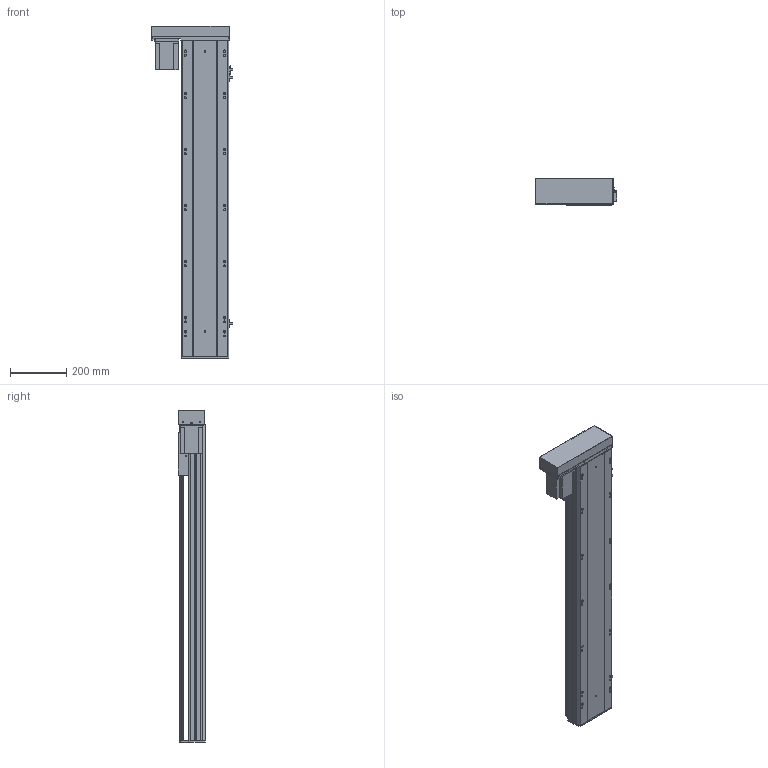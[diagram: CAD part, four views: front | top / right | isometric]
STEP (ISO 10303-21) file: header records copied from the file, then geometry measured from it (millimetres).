
FILE_DESCRIPTION (( 'STEP AP203' ), '1' );
FILE_NAME ('Y170-D10-S900-BL-P750W.STEP', '2020-01-19T23:05:42', ( '微软用户' ), ( '微软中国' ), 'SwSTEP 2.0', 'SolidWorks 2017', '' );
FILE_SCHEMA (( 'CONFIG_CONTROL_DESIGN' ));
Length unit declared in the file: millimetre
Products named in the file (12): Y170-陔遴奻裔-BR; YD-Y100-135-新外置传感挡片(通用）; Y--BL蟀諉啣-陔遴-; Y100-135俋离換覜ん; Y170-D10-S900-BL-P750W; 170--掛极-BR; Y170-BL-P750W楊擘啣; 侂狟750W; EGH20賑輸_蕼偞; Y雄赽釱-耜蚾; Y-BL.BR-俋欶; Y170耜裔--準---
Assembly tree (14 placements, depth 2):
  Y170-D10-S900-BL-P750W
    Y170耜裔--準---
    YD-Y100-135-新外置传感挡片(通用）
    Y100-135俋离換覜ん  x3
    170--掛极-BR
    Y170-BL-P750W楊擘啣
    侂狟750W
    EGH20賑輸_蕼偞  x2
    Y雄赽釱-耜蚾
    Y-BL.BR-俋欶
    Y170-陔遴奻裔-BR
    Y--BL蟀諉啣-陔遴-
Bounding box: 289 x 97 x 1183.5 mm (x, y, z)
Volume: 5708508.8 mm3; surface area: 1968841.5 mm2
Topology: 14 solids, 14 shells, 933 faces, 2642 edges, 1744 vertices
Faces by surface type: cylinder 474, plane 443, cone 16
Entity records: 29690 total; most frequent: CARTESIAN_POINT 5302, DIRECTION 4908, ORIENTED_EDGE 4780, EDGE_CURVE 2390, AXIS2_PLACEMENT_3D 1746, VERTEX_POINT 1588, LINE 1416, VECTOR 1416
